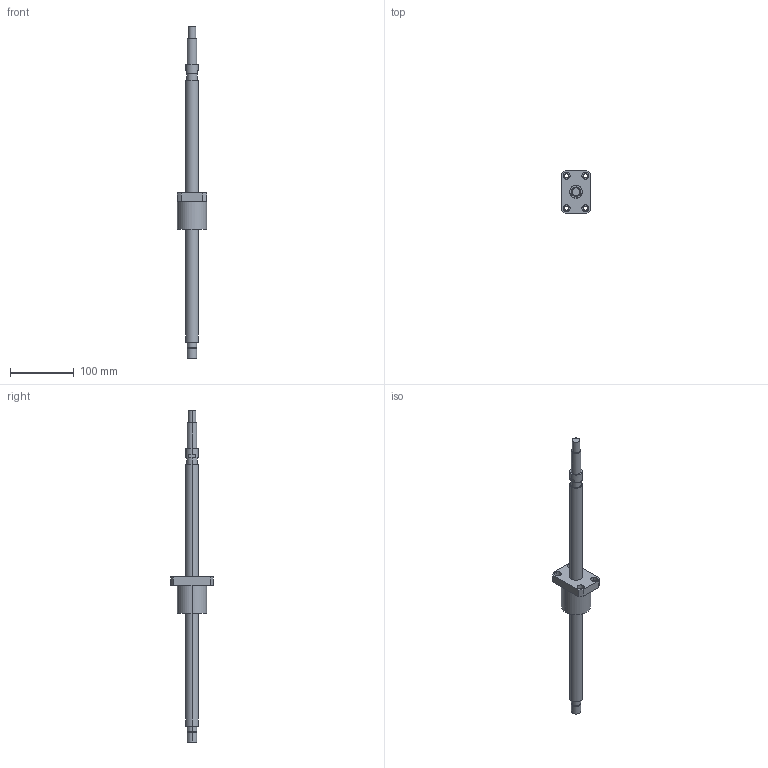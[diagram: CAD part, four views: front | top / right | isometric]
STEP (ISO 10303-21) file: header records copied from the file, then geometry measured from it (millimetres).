
FILE_DESCRIPTION((''),'2;1');
FILE_NAME('R20-20K2-FSC-410-520','2008-04-03T',('wcwu'),(''),'PRO/ENGINEER BY PARAMETRIC TECHNOLOGY CORPORATION, 2005070','PRO/ENGINEER BY PARAMETRIC TECHNOLOGY CORPORATION, 2005070','');
FILE_SCHEMA(('CONFIG_CONTROL_DESIGN'));
Length unit declared in the file: millimetre
Products named in the file (1): R20-20K2-FSC-410-520
Bounding box: 46 x 66 x 520 mm (x, y, z)
Volume: 239790.6 mm3; surface area: 43895.2 mm2
Topology: 1 solids, 1 shells, 65 faces, 146 edges, 96 vertices
Faces by surface type: cylinder 40, plane 25
Entity records: 1906 total; most frequent: DIRECTION 360, CARTESIAN_POINT 307, ORIENTED_EDGE 292, AXIS2_PLACEMENT_3D 149, EDGE_CURVE 146, VERTEX_POINT 96, EDGE_LOOP 86, CIRCLE 84
